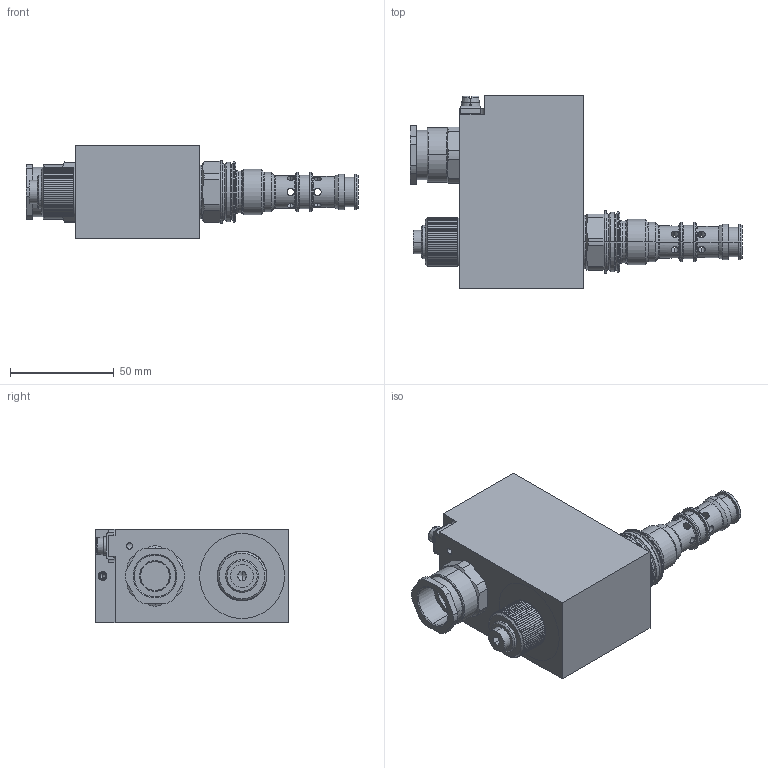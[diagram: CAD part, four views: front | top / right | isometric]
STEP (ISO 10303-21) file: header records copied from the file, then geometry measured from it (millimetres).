
FILE_DESCRIPTION (( 'STEP AP214' ), '1' );
FILE_NAME ('SDYPM22-FG.STEP', '2014-06-19T13:02:39', ( '' ), ( '' ), 'SwSTEP 2.0', 'SolidWorks 2014', '' );
FILE_SCHEMA (( 'AUTOMOTIVE_DESIGN' ));
Length unit declared in the file: millimetre
Products named in the file (2): SDYPM22-FG
Bounding box: 160.25 x 93.3 x 45 mm (x, y, z)
Volume: 279966.3 mm3; surface area: 65750.1 mm2
Topology: 14 solids, 16 shells, 837 faces, 2135 edges, 1365 vertices
Faces by surface type: plane 422, cylinder 269, cone 84, torus 52, bspline 10
Entity records: 36284 total; most frequent: CARTESIAN_POINT 7133, ORIENTED_EDGE 4254, DIRECTION 3966, EDGE_CURVE 2127, AXIS2_PLACEMENT_3D 1569, VERTEX_POINT 1363, EDGE_LOOP 924, UNCERTAINTY_MEASURE_WITH_UNIT 853
